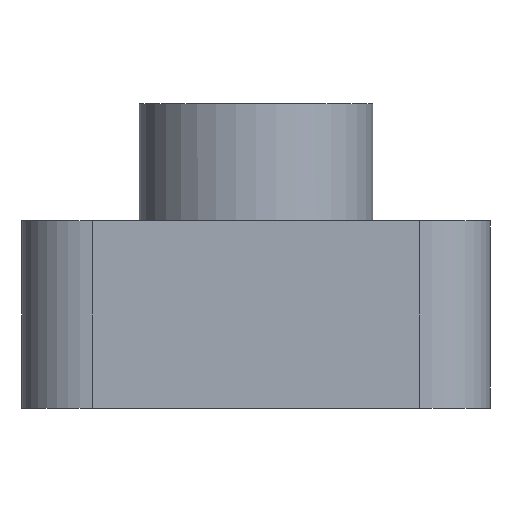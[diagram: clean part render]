
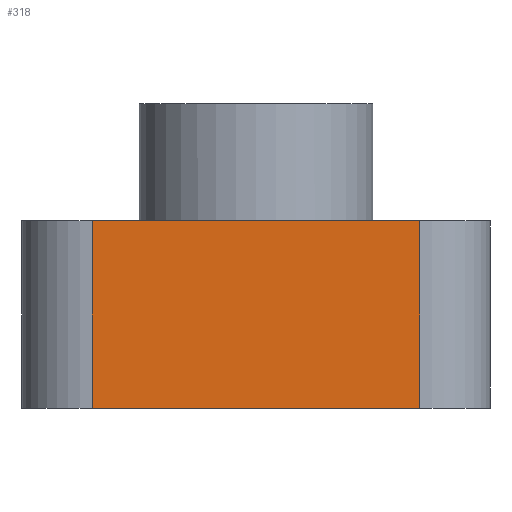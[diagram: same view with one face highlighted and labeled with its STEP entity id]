
A CAD part, left-side view. The second image highlights one B-rep face of the part: STEP entity #318.
In plain terms, the highlighted planar face has unit normal (-1, 0, 0).
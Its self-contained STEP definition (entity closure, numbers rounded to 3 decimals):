
#30=PLANE('',#365);
#47=FACE_OUTER_BOUND('',#71,.T.);
#71=EDGE_LOOP('',(#290,#291,#292,#293));
#72=LINE('',#466,#98);
#79=LINE('',#482,#105);
#88=LINE('',#519,#114);
#93=LINE('',#527,#119);
#98=VECTOR('',#372,10.);
#105=VECTOR('',#385,10.);
#114=VECTOR('',#422,10.);
#119=VECTOR('',#431,10.);
#141=VERTEX_POINT('',#463);
#142=VERTEX_POINT('',#465);
#148=VERTEX_POINT('',#481);
#161=VERTEX_POINT('',#515);
#169=EDGE_CURVE('',#141,#142,#72,.T.);
#177=EDGE_CURVE('',#142,#148,#79,.T.);
#196=EDGE_CURVE('',#148,#161,#88,.T.);
#201=EDGE_CURVE('',#161,#141,#93,.T.);
#290=ORIENTED_EDGE('',*,*,#169,.F.);
#291=ORIENTED_EDGE('',*,*,#201,.F.);
#292=ORIENTED_EDGE('',*,*,#196,.F.);
#293=ORIENTED_EDGE('',*,*,#177,.F.);
#318=ADVANCED_FACE('',(#47),#30,.T.);
#365=AXIS2_PLACEMENT_3D('',#547,#458,#459);
#372=DIRECTION('',(0.,0.,-1.));
#385=DIRECTION('',(0.,1.,0.));
#422=DIRECTION('',(0.,0.,1.));
#431=DIRECTION('',(0.,-1.,0.));
#458=DIRECTION('center_axis',(-1.,0.,0.));
#459=DIRECTION('ref_axis',(0.,-1.,0.));
#463=CARTESIAN_POINT('',(-24.5,-7.,4.));
#465=CARTESIAN_POINT('',(-24.5,-7.,-4.));
#466=CARTESIAN_POINT('',(-24.5,-7.,0.));
#481=CARTESIAN_POINT('',(-24.5,7.,-4.));
#482=CARTESIAN_POINT('',(-24.5,-10.,-4.));
#515=CARTESIAN_POINT('',(-24.5,7.,4.));
#519=CARTESIAN_POINT('',(-24.5,7.,0.));
#527=CARTESIAN_POINT('',(-24.5,-10.,4.));
#547=CARTESIAN_POINT('Origin',(-24.5,10.,0.));
